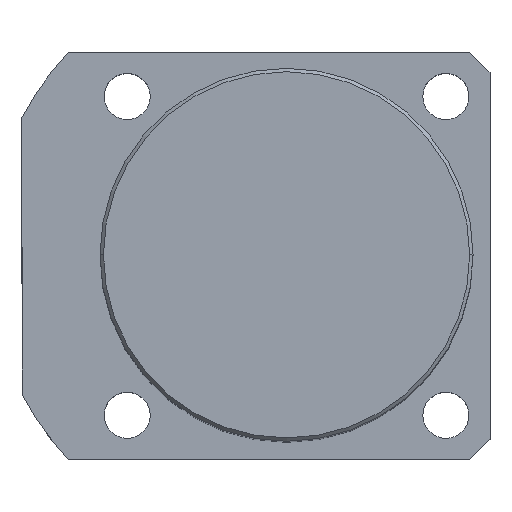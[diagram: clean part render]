
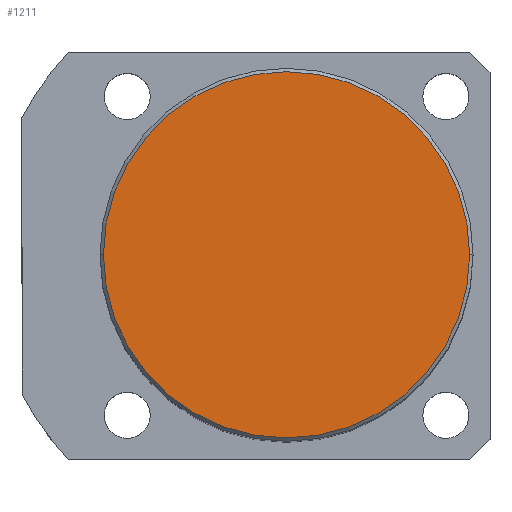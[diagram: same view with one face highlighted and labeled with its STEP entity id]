
A CAD part, top view. The second image highlights one B-rep face of the part: STEP entity #1211.
In plain terms, the highlighted planar face has unit normal (0, 0, 1).
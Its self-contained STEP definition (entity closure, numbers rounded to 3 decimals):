
#74 = ORIENTED_EDGE ( 'NONE', *, *, #993, .T. ) ;
#276 = EDGE_LOOP ( 'NONE', ( #74, #652 ) ) ;
#342 = EDGE_CURVE ( 'NONE', #1272, #837, #411, .T. ) ;
#411 = CIRCLE ( 'NONE', #1965, 27. ) ;
#457 = DIRECTION ( 'NONE',  ( 1., 0., 0. ) ) ;
#606 = DIRECTION ( 'NONE',  ( 0., 0., 1. ) ) ;
#643 = CARTESIAN_POINT ( 'NONE',  ( 0., 0., 100. ) ) ;
#652 = ORIENTED_EDGE ( 'NONE', *, *, #342, .T. ) ;
#837 = VERTEX_POINT ( 'NONE', #1834 ) ;
#846 = DIRECTION ( 'NONE',  ( 0., 0., 1. ) ) ;
#993 = EDGE_CURVE ( 'NONE', #837, #1272, #1043, .T. ) ;
#1043 = CIRCLE ( 'NONE', #1750, 27. ) ;
#1062 = PLANE ( 'NONE',  #1141 ) ;
#1097 = CARTESIAN_POINT ( 'NONE',  ( 27., 0., 100. ) ) ;
#1109 = DIRECTION ( 'NONE',  ( 0., 0., 1. ) ) ;
#1141 = AXIS2_PLACEMENT_3D ( 'NONE', #1646, #606, #1675 ) ;
#1211 = ADVANCED_FACE ( 'NONE', ( #1760 ), #1062, .T. ) ;
#1272 = VERTEX_POINT ( 'NONE', #1097 ) ;
#1646 = CARTESIAN_POINT ( 'NONE',  ( 0., 0., 100. ) ) ;
#1675 = DIRECTION ( 'NONE',  ( 1., 0., 0. ) ) ;
#1750 = AXIS2_PLACEMENT_3D ( 'NONE', #1909, #846, #1915 ) ;
#1760 = FACE_OUTER_BOUND ( 'NONE', #276, .T. ) ;
#1834 = CARTESIAN_POINT ( 'NONE',  ( -27., 0., 100. ) ) ;
#1909 = CARTESIAN_POINT ( 'NONE',  ( 0., 0., 100. ) ) ;
#1915 = DIRECTION ( 'NONE',  ( 1., 0., 0. ) ) ;
#1965 = AXIS2_PLACEMENT_3D ( 'NONE', #643, #1109, #457 ) ;
